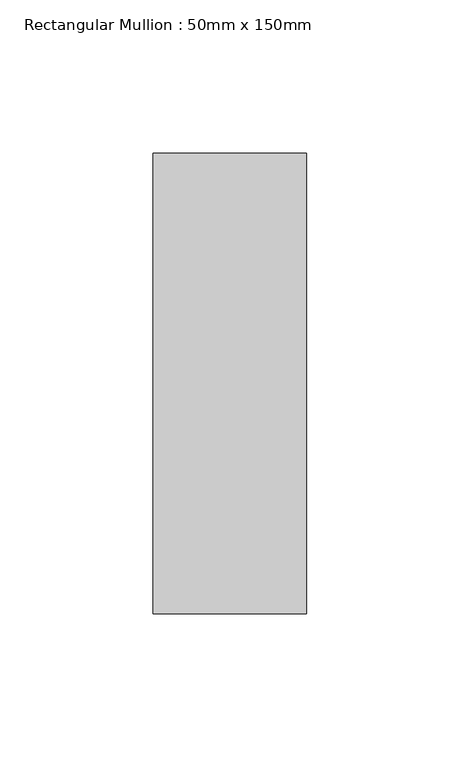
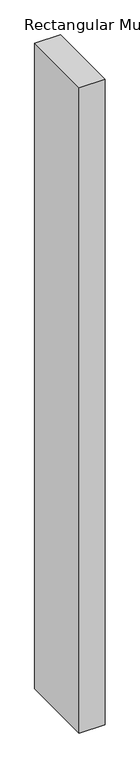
"""IFC4 building model written with IfcOpenShell, lengths in millimetres: member geometry, Rectangular Mullion : 50mm x 150mm."""

from ifc_helpers import new_model, si_unit, frame, origin, place, context, project, spatial, polyline, outline, extrude, source, transform, mapped, element, save


def rectangular_mullion_50mm_x_150mm_da00b109(model_context):
    return source(origin(), model_context, "Body", "SweptSolid", [
        extrude(outline(polyline([(25.0, 75.0), (25.0, -75.0), (-25.0, -75.0), (-25.0, 75.0), (25.0, 75.0)])), frame((0.0, 0.0, -1326.0284886), z_axis=(0.0, 0.0, 1.0), x_axis=(1.0, 0.0, 0.0)), (0.0, 0.0, 1.0), 1326.0284886),
    ])


if __name__ == "__main__":
    model = new_model("IFC4")
    model_context = context("Model", 3, world=origin())
    ifc_project = project(units=[si_unit("LENGTHUNIT", "METRE", prefix="MILLI")], contexts=[model_context])
    site = spatial("IfcSite", under=ifc_project)
    building = spatial("IfcBuilding", under=site)
    placement = place(None, origin())
    rectangular_mullion_50mm_x_150mm_shape = rectangular_mullion_50mm_x_150mm_da00b109(model_context)
    element("IfcMember", 1, ObjectType="Rectangular Mullion : 50mm x 150mm", at=placement, inside=building, context=model_context, shape_type="MappedRepresentation", body=[
        mapped(rectangular_mullion_50mm_x_150mm_shape, transform((0.0, 0.0, 0.0), x_axis=(1.0, 0.0, 0.0), y_axis=(0.0, 1.0, 0.0), z_axis=(0.0, 0.0, 1.0))),
    ])
    save(model, "model.ifc")
